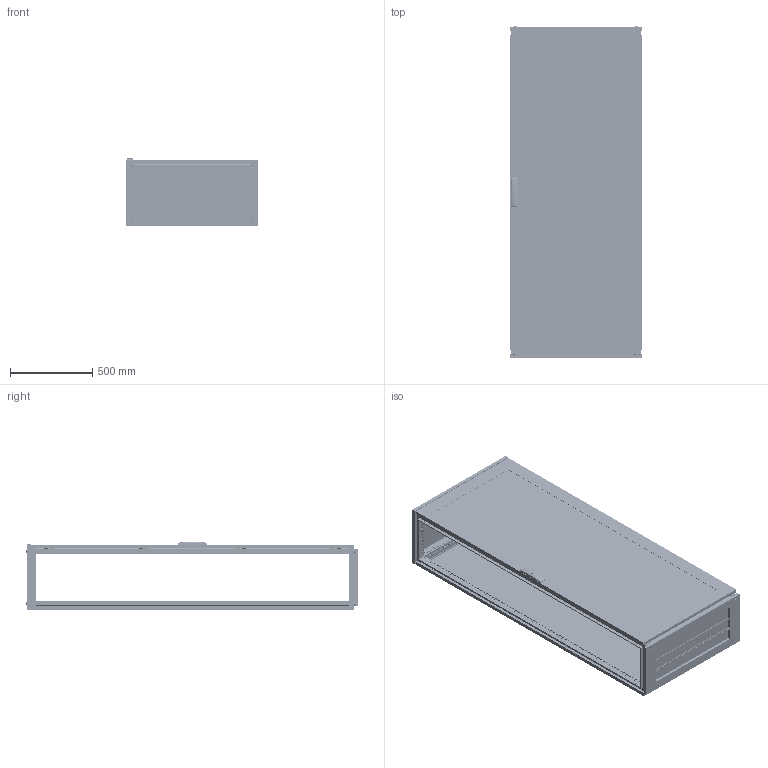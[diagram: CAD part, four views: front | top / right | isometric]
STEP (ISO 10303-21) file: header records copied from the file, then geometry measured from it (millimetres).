
FILE_DESCRIPTION (( 'STEP AP203' ), '1' );
FILE_NAME ('R5CQEN2084AX.STEP', '2025-05-07T12:08:31', ( '' ), ( '' ), 'SwSTEP 2.0', 'SolidWorks 2022', '' );
FILE_SCHEMA (( 'CONFIG_CONTROL_DESIGN' ));
Length unit declared in the file: millimetre
Products named in the file (65): TPA.08.0139.00.01.0 simple; RB.0528.04.01.0 simple; ATOS Traction guide ILY03.35; TPA.08.0084.00.00.0 simple; 4.8x13 DIN 7981 PH Zinc_straight; RB.2455.00.00.0 simple_-03; TPA.08.0139.00.03.0; RB.1728.00.00.0 simple_-02; 4,0x16 F Torx Zinc (ART 88200)_thread; M6 MGR-MKO-0625 simple_Thread; RB.0054.01.01.0 simple_-24; RB.2357.00.00.0 simple_-05; RB.2755.00.00.0 СБ simple_-18; RB.1633.00.01.0 simple_-03; M6 DIN 985 cl.6,0 Zinc_straight; RB.2680.00.01.0 simple; M6x15 Erickson cl.4,8 Zinc; RB.2969.00.00.0 СБ simple; RB.0528.00.01.0 simple_-05; RB.1867.01.00.0 СБ simple_-27; Pressing stud FH-M6-12_M6x12mm; 7 DIN 6799 Zinc; TPA.08.0083.00.00.0 simple; RB.2052.00.00.0 СБ simple_-24; M8x12 AC00C476 cl.8,8 Zinc_stright; M12x16 ISO 7380-1 HX cl.4,8 Zinc_straight; RB.0562.01.01.0 simple_-16; Glass CPTE_2000x0800; RB.2457.00.00.0 СБ simple_-18; RB.2172.00.00.1 simple; RB.1633.00.02.0 simple_default; AC00C446-R; RB.2456.00.00.0 simple; 7 DIN 6799 Zinc simple; R5CQEN2084AX; R5NCRE-Assem simple_R5NCRE2080; RB.1867.01.01.0 simple_-12; Square cap 20x20 simple; RB.0562.01.00.0 СБ simple_-16; RB.2702.00.00.0 simple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
Assembly tree (173 placements, depth 5):
  R5CQEN2084AX
    R5NCPTE - Assem simple_R5NCPTE2080
      RB.0562.00.00.0 СБ simple_-16
        RB.0562.01.00.0 СБ simple_-16
          RB.0562.01.01.0 simple_-16
          М6х12 A5100231_straight  x7
          RB.2702.00.00.0 simple  x4
          PF 7,5x15 CPE simple_2000x0800
          Glass CPTE_2000x0800
          Glue CPTE simple_2000x0800
        Square cap 20x20 simple  x2
        M6x15 Erickson cl.4,8 Zinc  x2
        RB.0528.00.01.0 simple_-05  x2
        ATOS Traction guide ILY03.35  x4
        RB.2357.00.00.0 simple_-05
        RB.2680.00.00.0 СБ simple
          TPA.08.0139.00.01.0 simple
          RB.2680.00.01.0 simple
          RB.2680.00.02.0 simple  x2
        TPA.08.0139.00.03.0  x2
        M6 DIN 985 cl.6,0 Zinc_straight  x4
        4,0x16 F Torx Zinc (ART 88200)_thread  x2
        RB.0528.04.00.0 СБ simple  x2
          RB.0528.04.01.0 simple
          Pressing stud FH-M6-12_M6x12mm
      M6x10 DIN 912 HX cl.8,8 Zinc_straight  x8
      4.8x13 DIN 7981 PH Zinc_straight
      7 DIN 6799 Zinc simple  x4
      RB.2968.00.00.0 simple  x4
      RB.2969.00.00.0 СБ simple  x4
        RB.2969.00.01.0 simple
        Pin 4x16 DIN 7 AISI 303 (A1) simple
        M6 MGR-MKO-0625 simple_Thread
      AC00C446-R
      RB.2696.00.00.0 simple  x4
      7 DIN 6799 Zinc  x4
    R5NCRE-Assem simple_R5NCRE2080
      RB.2052.00.00.0 СБ simple_-24
        RB.2052.01.00.0 СБ simple_-24
          RB.0054.01.01.0 simple_-24
          М6х12 A5100231_straight  x4
        PF 7x14 CRE simple_2000x0800
      RB.2172.00.00.1 simple  x8
      M6x10 DIN 7500 E HX cl.5.8 Zinc_straight  x8
      M6x10 DIN 7500 M Torx cl.5.8 Zinc_straight  x8
    R5NKMN - Assem simple_R5NKMN20 (800х400)
      RB.2528.00.00.0 simple_-05  x4
    R5NKTB - Assem simple_H=2000 R5NKTB84
      RB.2499.00.00.0 СБ simple_-18
        RB.2499.01.00.0 СБ simple_-17
          RB.1633.00.01.0 simple_-03  x2
          RB.1633.00.02.0 simple_default  x2
          PF 5x10 KTB simple_800x400
        RB.2457.00.00.0 СБ simple_-18
          RB.2455.00.00.0 simple_-03  x2
          RB.2456.00.00.0 simple  x2
          TPA.08.0084.00.00.0 simple  x2
          TPA.08.0083.00.00.0 simple  x2
          M8x12 AC00C476 cl.8,8 Zinc_stright  x4
        RB.1728.00.00.0 simple_-02  x3
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Bounding box: 800 x 2013.3 x 414.79 mm (x, y, z)
Volume: 17299813.7 mm3; surface area: 14542981.6 mm2
Topology: 176 solids, 192 shells, 22193 faces, 62875 edges, 41419 vertices
Faces by surface type: plane 12443, cylinder 8209, cone 704, bspline 435, torus 368, sphere 34
Entity records: 221769 total; most frequent: CARTESIAN_POINT 54971, ORIENTED_EDGE 33058, DIRECTION 31507, EDGE_CURVE 16555, VERTEX_POINT 10962, AXIS2_PLACEMENT_3D 10569, LINE 10369, VECTOR 10369
